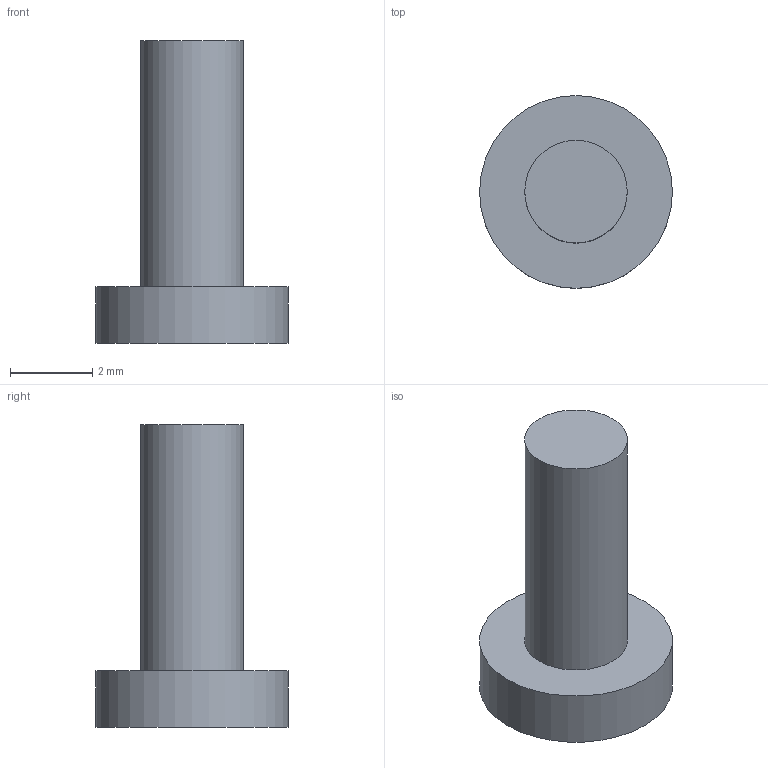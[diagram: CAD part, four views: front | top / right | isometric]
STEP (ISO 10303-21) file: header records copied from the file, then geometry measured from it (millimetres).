
FILE_DESCRIPTION(('Open CASCADE Model'),'2;1');
FILE_NAME('Open CASCADE Shape Model','2026-11-23T18:10:07',('Author'),( 'Open CASCADE'),'Open CASCADE STEP processor 8.0','build123d', 'Unknown');
FILE_SCHEMA(('AUTOMOTIVE_DESIGN { 1 0 10303 214 1 1 1 1 }'));
Length unit declared in the file: millimetre
Products named in the file (2): =>[0:1:1:2]; SOLID
Assembly tree (1 placements, depth 2):
  =>[0:1:1:2]
    SOLID
Bounding box: 4.7 x 4.7 x 7.38 mm (x, y, z)
Volume: 53.3 mm3; surface area: 102.1 mm2
Topology: 1 solids, 1 shells, 5 faces, 6 edges, 4 vertices
Faces by surface type: plane 3, cylinder 2
Full cylindrical faces by diameter (mm): 2.5 x1, 4.7 x1
Entity records: 210 total; most frequent: DIRECTION 36, CARTESIAN_POINT 29, ORIENTED_EDGE 12, PCURVE 12, DEFINITIONAL_REPRESENTATION 12, AXIS2_PLACEMENT_3D 11, LINE 10, VECTOR 10
